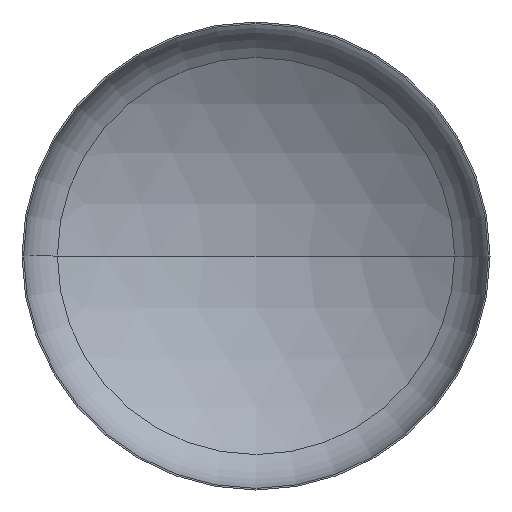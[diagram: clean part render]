
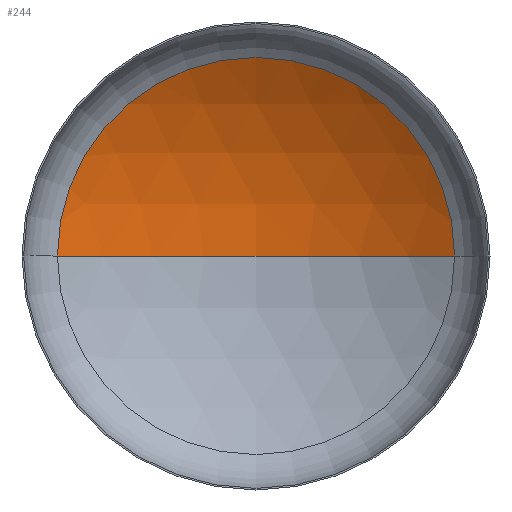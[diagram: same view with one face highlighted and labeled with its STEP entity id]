
A CAD part, front view. The second image highlights one B-rep face of the part: STEP entity #244.
In plain terms, the highlighted spherical face has radius 2080 mm.
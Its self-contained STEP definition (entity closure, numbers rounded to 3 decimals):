
#2 = AXIS2_PLACEMENT_3D ( 'NONE', #266, #180, #182 ) ;
#11 = EDGE_LOOP ( 'NONE', ( #59, #35, #138 ) ) ;
#23 = AXIS2_PLACEMENT_3D ( 'NONE', #148, #150, #151 ) ;
#25 = VERTEX_POINT ( 'NONE', #305 ) ;
#29 = AXIS2_PLACEMENT_3D ( 'NONE', #211, #279, #261 ) ;
#35 = ORIENTED_EDGE ( 'NONE', *, *, #356, .T. ) ;
#59 = ORIENTED_EDGE ( 'NONE', *, *, #330, .F. ) ;
#73 = VERTEX_POINT ( 'NONE', #262 ) ;
#138 = ORIENTED_EDGE ( 'NONE', *, *, #353, .T. ) ;
#148 = CARTESIAN_POINT ( 'NONE',  ( 0., -1394.261, 0. ) ) ;
#150 = DIRECTION ( 'NONE',  ( 0., 0., 1. ) ) ;
#151 = DIRECTION ( 'NONE',  ( 1., 0., 0. ) ) ;
#174 = AXIS2_PLACEMENT_3D ( 'NONE', #189, #404, #310 ) ;
#180 = DIRECTION ( 'NONE',  ( 0., -1., 0. ) ) ;
#182 = DIRECTION ( 'NONE',  ( 1., 0., 0. ) ) ;
#189 = CARTESIAN_POINT ( 'NONE',  ( 0., -1394.261, 0. ) ) ;
#205 = VERTEX_POINT ( 'NONE', #212 ) ;
#211 = CARTESIAN_POINT ( 'NONE',  ( 0., -1394.261, 0. ) ) ;
#212 = CARTESIAN_POINT ( 'NONE',  ( 1103.143, 369.11, 0. ) ) ;
#244 = ADVANCED_FACE ( 'NONE', ( #385 ), #274, .F. ) ;
#257 = CIRCLE ( 'NONE', #23, 2080. ) ;
#261 = DIRECTION ( 'NONE',  ( -1., 0., 0. ) ) ;
#262 = CARTESIAN_POINT ( 'NONE',  ( 0., 685.739, 0. ) ) ;
#266 = CARTESIAN_POINT ( 'NONE',  ( 0., 369.11, 0. ) ) ;
#274 = SPHERICAL_SURFACE ( 'NONE', #29, 2080. ) ;
#279 = DIRECTION ( 'NONE',  ( 0., 0., -1. ) ) ;
#305 = CARTESIAN_POINT ( 'NONE',  ( -1103.143, 369.11, 0. ) ) ;
#310 = DIRECTION ( 'NONE',  ( -1., 0., 0. ) ) ;
#330 = EDGE_CURVE ( 'NONE', #73, #25, #257, .T. ) ;
#353 = EDGE_CURVE ( 'NONE', #205, #25, #374, .T. ) ;
#356 = EDGE_CURVE ( 'NONE', #73, #205, #378, .T. ) ;
#374 = CIRCLE ( 'NONE', #2, 1103.143 ) ;
#378 = CIRCLE ( 'NONE', #174, 2080. ) ;
#385 = FACE_OUTER_BOUND ( 'NONE', #11, .T. ) ;
#404 = DIRECTION ( 'NONE',  ( 0., 0., -1. ) ) ;
